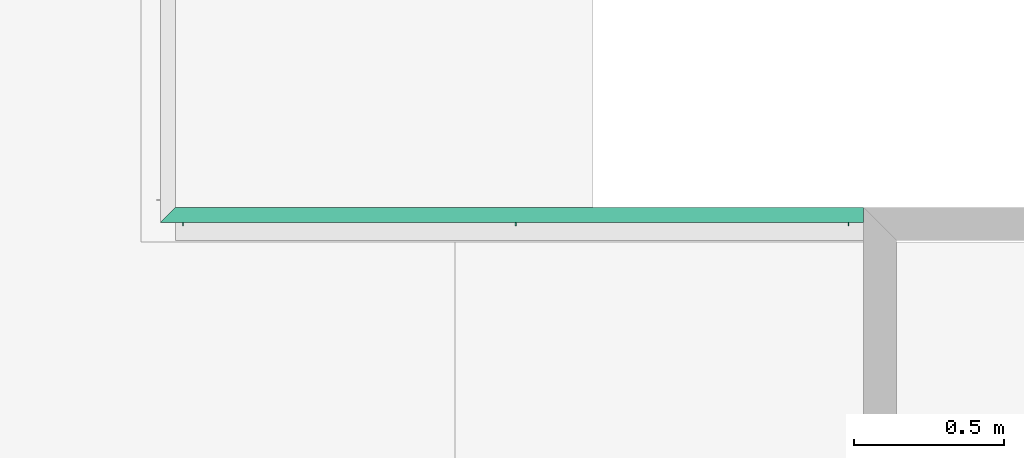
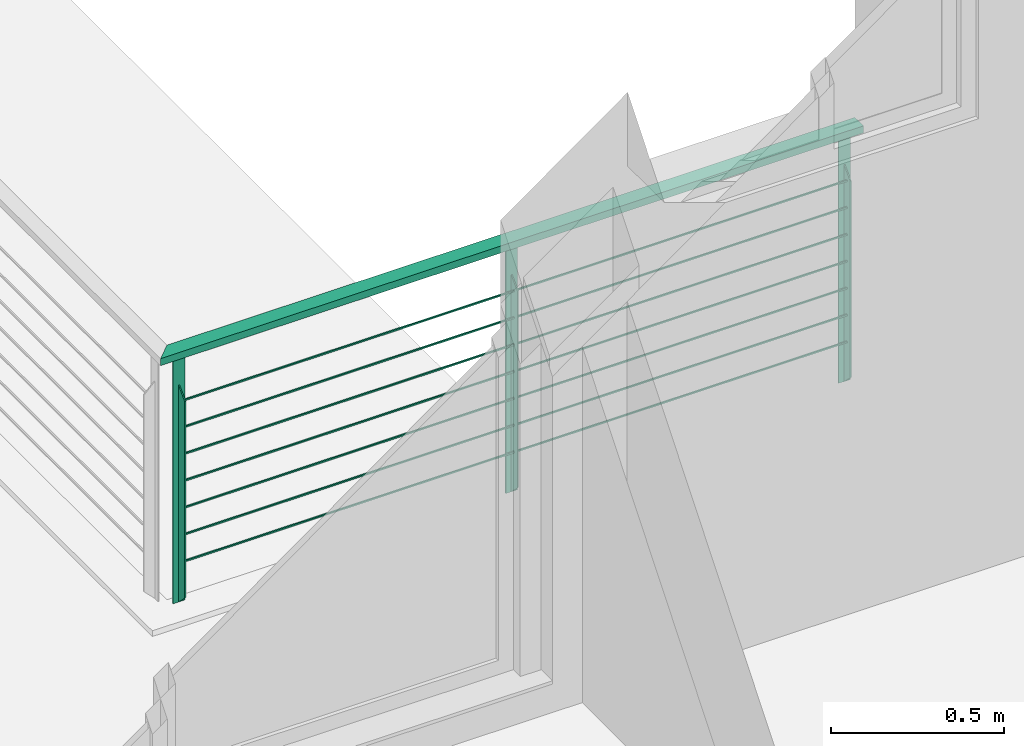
# One storey, part 23 of 24: 1 distribution element.
"""IFC2X3 building model written with IfcOpenShell, lengths in millimetres."""

from ifc_helpers import new_model, entity, si_unit, converted_unit, money_unit, direction, frame, origin_with_axes, place, context, subcontext, project, spatial, faceted_brep, material, type_object, element, save


model = new_model("IFC2X3")

# Units and contexts
model_context = context("Model", 3, precision=1e-05, world=origin_with_axes(), true_north=direction((0.0, 1.0)))
body_context = subcontext(model_context, "Body", "Model", "MODEL_VIEW")
ifc_project = project(units=[si_unit("LENGTHUNIT", "METRE", prefix="MILLI"), si_unit("AREAUNIT", "SQUARE_METRE"), si_unit("VOLUMEUNIT", "CUBIC_METRE"), converted_unit("PLANEANGLEUNIT", "DEGREE", entity("IfcPlaneAngleMeasure", 0.0174532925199), si_unit("PLANEANGLEUNIT", "RADIAN"), dimensions=[0, 0, 0, 0, 0, 0, 0]), si_unit("SOLIDANGLEUNIT", "STERADIAN"), money_unit("USD"), converted_unit("TIMEUNIT", "Year", entity("IfcTimeMeasure", 31556926.0), si_unit("TIMEUNIT", "SECOND"), dimensions=[0, 0, 0, 0, 0, 0, 0]), si_unit("MASSUNIT", "GRAM"), si_unit("THERMODYNAMICTEMPERATUREUNIT", "DEGREE_CELSIUS"), si_unit("LUMINOUSINTENSITYUNIT", "LUMEN")], contexts=[model_context])

# Site, building, storey
site_placement = place(None, origin_with_axes())
site = spatial("IfcSite", under=ifc_project, at=site_placement, Name="Grove Residential", CompositionType="ELEMENT")
building_placement = place(site_placement, origin_with_axes())
building = spatial("IfcBuilding", under=site, at=building_placement, Name="Building", CompositionType="ELEMENT")
storey_placement = place(building_placement, frame((0.0, 0.0, 3740.0), z_axis=(0.0, 0.0, 1.0), x_axis=(1.0, 0.0, 0.0)))
storey = spatial("IfcBuildingStorey", under=building, at=storey_placement, Name="First Floor", CompositionType="ELEMENT", Elevation=3740.0)

# Distribution element
ifc_material = material(Name="Background")
distribution_element_type = type_object("IfcDistributionElementType", Name="Rail Wired 02 20")
distribution_element_placement = place(storey_placement, frame((11550.0, 7975.0, -80.0), z_axis=(0.0, 0.0, 1.0), x_axis=(1.0, 0.0, 0.0)))
element("IfcDistributionElement", 1, at=distribution_element_placement, inside=storey, type_object=distribution_element_type, material=ifc_material, Name="FU - 001", context=body_context, shape_type="Brep", body=[
    faceted_brep([(0.0, 25.0, 875.0), (0.0, 25.0, 900.0), (0.0, -25.0, 900.0), (0.0, -25.0, 875.0), (-2300.0, 25.0, 875.0), (-2300.0, 25.0, 900.0), (-2350.0, -25.0, 900.0), (-2350.0, -25.0, 900.0), (-2350.0, -25.0, 875.0), (-2350.0, -25.0, 875.0)], [[[0, 1, 2, 3]], [[4, 5, 1, 0]], [[1, 5, 6, 7, 2]], [[3, 2, 7, 8]], [[0, 3, 8, 9, 4]], [[9, 6, 5, 4]], [[8, 7, 6, 9]]]),
    faceted_brep([(-30.0, -2.0, 0.0), (-30.0, -2.0, 871.0), (-70.0, -2.0, 871.0), (-70.0, -2.0, 0.0), (-30.0, 2.0, 0.0), (-30.0, 2.0, 871.0), (-70.0, 2.0, 871.0), (-70.0, 2.0, 0.0)], [[[0, 1, 2, 3]], [[4, 5, 1, 0]], [[1, 5, 6, 2]], [[3, 2, 6, 7]], [[0, 3, 7, 4]], [[7, 6, 5, 4]]]),
    faceted_brep([(-52.0, -38.0, 36.0), (-48.0, -38.0, 36.0), (-48.0, -38.0, 731.0), (-52.0, -38.0, 731.0), (-52.0, -2.0, 0.0), (-48.0, -2.0, 0.0), (-48.0, -2.0, 767.0), (-52.0, -2.0, 767.0)], [[[0, 1, 2, 3]], [[4, 5, 1, 0]], [[1, 5, 6, 2]], [[3, 2, 6, 7]], [[0, 3, 7, 4]], [[7, 6, 5, 4]]]),
    faceted_brep([(-1142.5, -2.0, 0.0), (-1142.5, -2.0, 871.0), (-1182.5, -2.0, 871.0), (-1182.5, -2.0, 0.0), (-1142.5, 2.0, 0.0), (-1142.5, 2.0, 871.0), (-1182.5, 2.0, 871.0), (-1182.5, 2.0, 0.0)], [[[0, 1, 2, 3]], [[4, 5, 1, 0]], [[1, 5, 6, 2]], [[3, 2, 6, 7]], [[0, 3, 7, 4]], [[7, 6, 5, 4]]]),
    faceted_brep([(-1164.5, -38.0, 36.0), (-1160.5, -38.0, 36.0), (-1160.5, -38.0, 731.0), (-1164.5, -38.0, 731.0), (-1164.5, -2.0, 0.0), (-1160.5, -2.0, 0.0), (-1160.5, -2.0, 767.0), (-1164.5, -2.0, 767.0)], [[[0, 1, 2, 3]], [[4, 5, 1, 0]], [[1, 5, 6, 2]], [[3, 2, 6, 7]], [[0, 3, 7, 4]], [[7, 6, 5, 4]]]),
    faceted_brep([(-2255.0, -2.0, 0.0), (-2255.0, -2.0, 871.0), (-2295.0, -2.0, 871.0), (-2295.0, -2.0, 0.0), (-2255.0, 2.0, 0.0), (-2255.0, 2.0, 871.0), (-2295.0, 2.0, 871.0), (-2295.0, 2.0, 0.0)], [[[0, 1, 2, 3]], [[4, 5, 1, 0]], [[1, 5, 6, 2]], [[3, 2, 6, 7]], [[0, 3, 7, 4]], [[7, 6, 5, 4]]]),
    faceted_brep([(-2277.0, -38.0, 36.0), (-2273.0, -38.0, 36.0), (-2273.0, -38.0, 731.0), (-2277.0, -38.0, 731.0), (-2277.0, -2.0, 0.0), (-2273.0, -2.0, 0.0), (-2273.0, -2.0, 767.0), (-2277.0, -2.0, 767.0)], [[[0, 1, 2, 3]], [[4, 5, 1, 0]], [[1, 5, 6, 2]], [[3, 2, 6, 7]], [[0, 3, 7, 4]], [[7, 6, 5, 4]]]),
    faceted_brep([(-20.0, -15.0, 871.0), (-20.0, -15.0, 875.0), (-80.0, -15.0, 875.0), (-80.0, -15.0, 871.0), (-20.0, 15.0, 871.0), (-20.0, 15.0, 875.0), (-80.0, 15.0, 875.0), (-80.0, 15.0, 871.0)], [[[0, 1, 2, 3]], [[4, 5, 1, 0]], [[1, 5, 6, 2]], [[3, 2, 6, 7]], [[0, 3, 7, 4]], [[7, 6, 5, 4]]]),
    faceted_brep([(-1132.5, -15.0, 871.0), (-1132.5, -15.0, 875.0), (-1192.5, -15.0, 875.0), (-1192.5, -15.0, 871.0), (-1132.5, 15.0, 871.0), (-1132.5, 15.0, 875.0), (-1192.5, 15.0, 875.0), (-1192.5, 15.0, 871.0)], [[[0, 1, 2, 3]], [[4, 5, 1, 0]], [[1, 5, 6, 2]], [[3, 2, 6, 7]], [[0, 3, 7, 4]], [[7, 6, 5, 4]]]),
    faceted_brep([(-2245.0, -15.0, 871.0), (-2245.0, -15.0, 875.0), (-2305.0, -15.0, 875.0), (-2305.0, -15.0, 871.0), (-2245.0, 15.0, 871.0), (-2245.0, 15.0, 875.0), (-2305.0, 15.0, 875.0), (-2305.0, 15.0, 871.0)], [[[0, 1, 2, 3]], [[4, 5, 1, 0]], [[1, 5, 6, 2]], [[3, 2, 6, 7]], [[0, 3, 7, 4]], [[7, 6, 5, 4]]]),
    faceted_brep([(-2255.0, -22.0, 155.0), (-2273.0, -22.0, 155.0), (-2273.0, -22.5, 155.0), (-1164.5, -22.5, 155.0), (-1164.5, -22.0, 155.0), (-1182.5, -22.0, 155.0), (-1182.5, -18.0, 155.0), (-1142.5, -18.0, 155.0), (-1142.5, -22.0, 155.0), (-1160.5, -22.0, 155.0), (-1160.5, -22.5, 155.0), (-52.0, -22.5, 155.0), (-52.0, -22.0, 155.0), (-70.0, -22.0, 155.0), (-70.0, -18.0, 155.0), (-50.0, -18.0, 155.0), (-50.0, -17.5, 155.0), (-2275.0, -17.5, 155.0), (-2275.0, -18.0, 155.0), (-2255.0, -18.0, 155.0), (-2255.0, -22.0, 150.0), (-2273.0, -22.0, 150.0), (-2273.0, -22.5, 150.0), (-1164.5, -22.5, 150.0), (-1164.5, -22.0, 150.0), (-1182.5, -22.0, 150.0), (-1182.5, -18.0, 150.0), (-1142.5, -18.0, 150.0), (-1142.5, -22.0, 150.0), (-1160.5, -22.0, 150.0), (-1160.5, -22.5, 150.0), (-52.0, -22.5, 150.0), (-52.0, -22.0, 150.0), (-70.0, -22.0, 150.0), (-70.0, -18.0, 150.0), (-50.0, -18.0, 150.0), (-50.0, -17.5, 150.0), (-2275.0, -17.5, 150.0), (-2275.0, -18.0, 150.0), (-2255.0, -18.0, 150.0)], [[[0, 1, 2, 3, 4, 5, 6, 7, 8, 9, 10, 11, 12, 13, 14, 15, 16, 17, 18, 19]], [[0, 20, 21, 1]], [[21, 22, 2, 1]], [[3, 2, 22, 23]], [[3, 23, 24, 4]], [[24, 25, 5, 4]], [[5, 25, 26, 6]], [[6, 26, 27, 7]], [[7, 27, 28, 8]], [[9, 8, 28, 29]], [[29, 30, 10, 9]], [[30, 31, 11, 10]], [[11, 31, 32, 12]], [[32, 33, 13, 12]], [[13, 33, 34, 14]], [[14, 34, 35, 15]], [[35, 36, 16, 15]], [[17, 16, 36, 37]], [[18, 17, 37, 38]], [[38, 39, 19, 18]], [[19, 39, 20, 0]], [[20, 39, 38, 37, 36, 35, 34, 33, 32, 31, 30, 29, 28, 27, 26, 25, 24, 23, 22, 21]]]),
    faceted_brep([(-2255.0, -22.0, 250.0), (-2273.0, -22.0, 250.0), (-2273.0, -22.5, 250.0), (-1164.5, -22.5, 250.0), (-1164.5, -22.0, 250.0), (-1182.5, -22.0, 250.0), (-1182.5, -18.0, 250.0), (-1142.5, -18.0, 250.0), (-1142.5, -22.0, 250.0), (-1160.5, -22.0, 250.0), (-1160.5, -22.5, 250.0), (-52.0, -22.5, 250.0), (-52.0, -22.0, 250.0), (-70.0, -22.0, 250.0), (-70.0, -18.0, 250.0), (-50.0, -18.0, 250.0), (-50.0, -17.5, 250.0), (-2275.0, -17.5, 250.0), (-2275.0, -18.0, 250.0), (-2255.0, -18.0, 250.0), (-2255.0, -22.0, 245.0), (-2273.0, -22.0, 245.0), (-2273.0, -22.5, 245.0), (-1164.5, -22.5, 245.0), (-1164.5, -22.0, 245.0), (-1182.5, -22.0, 245.0), (-1182.5, -18.0, 245.0), (-1142.5, -18.0, 245.0), (-1142.5, -22.0, 245.0), (-1160.5, -22.0, 245.0), (-1160.5, -22.5, 245.0), (-52.0, -22.5, 245.0), (-52.0, -22.0, 245.0), (-70.0, -22.0, 245.0), (-70.0, -18.0, 245.0), (-50.0, -18.0, 245.0), (-50.0, -17.5, 245.0), (-2275.0, -17.5, 245.0), (-2275.0, -18.0, 245.0), (-2255.0, -18.0, 245.0)], [[[0, 1, 2, 3, 4, 5, 6, 7, 8, 9, 10, 11, 12, 13, 14, 15, 16, 17, 18, 19]], [[0, 20, 21, 1]], [[21, 22, 2, 1]], [[3, 2, 22, 23]], [[3, 23, 24, 4]], [[24, 25, 5, 4]], [[5, 25, 26, 6]], [[6, 26, 27, 7]], [[7, 27, 28, 8]], [[9, 8, 28, 29]], [[29, 30, 10, 9]], [[30, 31, 11, 10]], [[11, 31, 32, 12]], [[32, 33, 13, 12]], [[13, 33, 34, 14]], [[14, 34, 35, 15]], [[35, 36, 16, 15]], [[17, 16, 36, 37]], [[18, 17, 37, 38]], [[38, 39, 19, 18]], [[19, 39, 20, 0]], [[20, 39, 38, 37, 36, 35, 34, 33, 32, 31, 30, 29, 28, 27, 26, 25, 24, 23, 22, 21]]]),
    faceted_brep([(-2255.0, -22.0, 345.0), (-2273.0, -22.0, 345.0), (-2273.0, -22.5, 345.0), (-1164.5, -22.5, 345.0), (-1164.5, -22.0, 345.0), (-1182.5, -22.0, 345.0), (-1182.5, -18.0, 345.0), (-1142.5, -18.0, 345.0), (-1142.5, -22.0, 345.0), (-1160.5, -22.0, 345.0), (-1160.5, -22.5, 345.0), (-52.0, -22.5, 345.0), (-52.0, -22.0, 345.0), (-70.0, -22.0, 345.0), (-70.0, -18.0, 345.0), (-50.0, -18.0, 345.0), (-50.0, -17.5, 345.0), (-2275.0, -17.5, 345.0), (-2275.0, -18.0, 345.0), (-2255.0, -18.0, 345.0), (-2255.0, -22.0, 340.0), (-2273.0, -22.0, 340.0), (-2273.0, -22.5, 340.0), (-1164.5, -22.5, 340.0), (-1164.5, -22.0, 340.0), (-1182.5, -22.0, 340.0), (-1182.5, -18.0, 340.0), (-1142.5, -18.0, 340.0), (-1142.5, -22.0, 340.0), (-1160.5, -22.0, 340.0), (-1160.5, -22.5, 340.0), (-52.0, -22.5, 340.0), (-52.0, -22.0, 340.0), (-70.0, -22.0, 340.0), (-70.0, -18.0, 340.0), (-50.0, -18.0, 340.0), (-50.0, -17.5, 340.0), (-2275.0, -17.5, 340.0), (-2275.0, -18.0, 340.0), (-2255.0, -18.0, 340.0)], [[[0, 1, 2, 3, 4, 5, 6, 7, 8, 9, 10, 11, 12, 13, 14, 15, 16, 17, 18, 19]], [[0, 20, 21, 1]], [[21, 22, 2, 1]], [[3, 2, 22, 23]], [[3, 23, 24, 4]], [[24, 25, 5, 4]], [[5, 25, 26, 6]], [[6, 26, 27, 7]], [[7, 27, 28, 8]], [[9, 8, 28, 29]], [[29, 30, 10, 9]], [[30, 31, 11, 10]], [[11, 31, 32, 12]], [[32, 33, 13, 12]], [[13, 33, 34, 14]], [[14, 34, 35, 15]], [[35, 36, 16, 15]], [[17, 16, 36, 37]], [[18, 17, 37, 38]], [[38, 39, 19, 18]], [[19, 39, 20, 0]], [[20, 39, 38, 37, 36, 35, 34, 33, 32, 31, 30, 29, 28, 27, 26, 25, 24, 23, 22, 21]]]),
    faceted_brep([(-2255.0, -22.0, 440.0), (-2273.0, -22.0, 440.0), (-2273.0, -22.5, 440.0), (-1164.5, -22.5, 440.0), (-1164.5, -22.0, 440.0), (-1182.5, -22.0, 440.0), (-1182.5, -18.0, 440.0), (-1142.5, -18.0, 440.0), (-1142.5, -22.0, 440.0), (-1160.5, -22.0, 440.0), (-1160.5, -22.5, 440.0), (-52.0, -22.5, 440.0), (-52.0, -22.0, 440.0), (-70.0, -22.0, 440.0), (-70.0, -18.0, 440.0), (-50.0, -18.0, 440.0), (-50.0, -17.5, 440.0), (-2275.0, -17.5, 440.0), (-2275.0, -18.0, 440.0), (-2255.0, -18.0, 440.0), (-2255.0, -22.0, 435.0), (-2273.0, -22.0, 435.0), (-2273.0, -22.5, 435.0), (-1164.5, -22.5, 435.0), (-1164.5, -22.0, 435.0), (-1182.5, -22.0, 435.0), (-1182.5, -18.0, 435.0), (-1142.5, -18.0, 435.0), (-1142.5, -22.0, 435.0), (-1160.5, -22.0, 435.0), (-1160.5, -22.5, 435.0), (-52.0, -22.5, 435.0), (-52.0, -22.0, 435.0), (-70.0, -22.0, 435.0), (-70.0, -18.0, 435.0), (-50.0, -18.0, 435.0), (-50.0, -17.5, 435.0), (-2275.0, -17.5, 435.0), (-2275.0, -18.0, 435.0), (-2255.0, -18.0, 435.0)], [[[0, 1, 2, 3, 4, 5, 6, 7, 8, 9, 10, 11, 12, 13, 14, 15, 16, 17, 18, 19]], [[0, 20, 21, 1]], [[21, 22, 2, 1]], [[3, 2, 22, 23]], [[3, 23, 24, 4]], [[24, 25, 5, 4]], [[5, 25, 26, 6]], [[6, 26, 27, 7]], [[7, 27, 28, 8]], [[9, 8, 28, 29]], [[29, 30, 10, 9]], [[30, 31, 11, 10]], [[11, 31, 32, 12]], [[32, 33, 13, 12]], [[13, 33, 34, 14]], [[14, 34, 35, 15]], [[35, 36, 16, 15]], [[17, 16, 36, 37]], [[18, 17, 37, 38]], [[38, 39, 19, 18]], [[19, 39, 20, 0]], [[20, 39, 38, 37, 36, 35, 34, 33, 32, 31, 30, 29, 28, 27, 26, 25, 24, 23, 22, 21]]]),
    faceted_brep([(-2255.0, -22.0, 535.0), (-2273.0, -22.0, 535.0), (-2273.0, -22.5, 535.0), (-1164.5, -22.5, 535.0), (-1164.5, -22.0, 535.0), (-1182.5, -22.0, 535.0), (-1182.5, -18.0, 535.0), (-1142.5, -18.0, 535.0), (-1142.5, -22.0, 535.0), (-1160.5, -22.0, 535.0), (-1160.5, -22.5, 535.0), (-52.0, -22.5, 535.0), (-52.0, -22.0, 535.0), (-70.0, -22.0, 535.0), (-70.0, -18.0, 535.0), (-50.0, -18.0, 535.0), (-50.0, -17.5, 535.0), (-2275.0, -17.5, 535.0), (-2275.0, -18.0, 535.0), (-2255.0, -18.0, 535.0), (-2255.0, -22.0, 530.0), (-2273.0, -22.0, 530.0), (-2273.0, -22.5, 530.0), (-1164.5, -22.5, 530.0), (-1164.5, -22.0, 530.0), (-1182.5, -22.0, 530.0), (-1182.5, -18.0, 530.0), (-1142.5, -18.0, 530.0), (-1142.5, -22.0, 530.0), (-1160.5, -22.0, 530.0), (-1160.5, -22.5, 530.0), (-52.0, -22.5, 530.0), (-52.0, -22.0, 530.0), (-70.0, -22.0, 530.0), (-70.0, -18.0, 530.0), (-50.0, -18.0, 530.0), (-50.0, -17.5, 530.0), (-2275.0, -17.5, 530.0), (-2275.0, -18.0, 530.0), (-2255.0, -18.0, 530.0)], [[[0, 1, 2, 3, 4, 5, 6, 7, 8, 9, 10, 11, 12, 13, 14, 15, 16, 17, 18, 19]], [[0, 20, 21, 1]], [[21, 22, 2, 1]], [[3, 2, 22, 23]], [[3, 23, 24, 4]], [[24, 25, 5, 4]], [[5, 25, 26, 6]], [[6, 26, 27, 7]], [[7, 27, 28, 8]], [[9, 8, 28, 29]], [[29, 30, 10, 9]], [[30, 31, 11, 10]], [[11, 31, 32, 12]], [[32, 33, 13, 12]], [[13, 33, 34, 14]], [[14, 34, 35, 15]], [[35, 36, 16, 15]], [[17, 16, 36, 37]], [[18, 17, 37, 38]], [[38, 39, 19, 18]], [[19, 39, 20, 0]], [[20, 39, 38, 37, 36, 35, 34, 33, 32, 31, 30, 29, 28, 27, 26, 25, 24, 23, 22, 21]]]),
    faceted_brep([(-2255.0, -22.0, 630.0), (-2273.0, -22.0, 630.0), (-2273.0, -22.5, 630.0), (-1164.5, -22.5, 630.0), (-1164.5, -22.0, 630.0), (-1182.5, -22.0, 630.0), (-1182.5, -18.0, 630.0), (-1142.5, -18.0, 630.0), (-1142.5, -22.0, 630.0), (-1160.5, -22.0, 630.0), (-1160.5, -22.5, 630.0), (-52.0, -22.5, 630.0), (-52.0, -22.0, 630.0), (-70.0, -22.0, 630.0), (-70.0, -18.0, 630.0), (-50.0, -18.0, 630.0), (-50.0, -17.5, 630.0), (-2275.0, -17.5, 630.0), (-2275.0, -18.0, 630.0), (-2255.0, -18.0, 630.0), (-2255.0, -22.0, 625.0), (-2273.0, -22.0, 625.0), (-2273.0, -22.5, 625.0), (-1164.5, -22.5, 625.0), (-1164.5, -22.0, 625.0), (-1182.5, -22.0, 625.0), (-1182.5, -18.0, 625.0), (-1142.5, -18.0, 625.0), (-1142.5, -22.0, 625.0), (-1160.5, -22.0, 625.0), (-1160.5, -22.5, 625.0), (-52.0, -22.5, 625.0), (-52.0, -22.0, 625.0), (-70.0, -22.0, 625.0), (-70.0, -18.0, 625.0), (-50.0, -18.0, 625.0), (-50.0, -17.5, 625.0), (-2275.0, -17.5, 625.0), (-2275.0, -18.0, 625.0), (-2255.0, -18.0, 625.0)], [[[0, 1, 2, 3, 4, 5, 6, 7, 8, 9, 10, 11, 12, 13, 14, 15, 16, 17, 18, 19]], [[0, 20, 21, 1]], [[21, 22, 2, 1]], [[3, 2, 22, 23]], [[3, 23, 24, 4]], [[24, 25, 5, 4]], [[5, 25, 26, 6]], [[6, 26, 27, 7]], [[7, 27, 28, 8]], [[9, 8, 28, 29]], [[29, 30, 10, 9]], [[30, 31, 11, 10]], [[11, 31, 32, 12]], [[32, 33, 13, 12]], [[13, 33, 34, 14]], [[14, 34, 35, 15]], [[35, 36, 16, 15]], [[17, 16, 36, 37]], [[18, 17, 37, 38]], [[38, 39, 19, 18]], [[19, 39, 20, 0]], [[20, 39, 38, 37, 36, 35, 34, 33, 32, 31, 30, 29, 28, 27, 26, 25, 24, 23, 22, 21]]]),
    faceted_brep([(-2255.0, -22.0, 725.0), (-2273.0, -22.0, 725.0), (-2273.0, -22.5, 725.0), (-1164.5, -22.5, 725.0), (-1164.5, -22.0, 725.0), (-1182.5, -22.0, 725.0), (-1182.5, -18.0, 725.0), (-1142.5, -18.0, 725.0), (-1142.5, -22.0, 725.0), (-1160.5, -22.0, 725.0), (-1160.5, -22.5, 725.0), (-52.0, -22.5, 725.0), (-52.0, -22.0, 725.0), (-70.0, -22.0, 725.0), (-70.0, -18.0, 725.0), (-50.0, -18.0, 725.0), (-50.0, -17.5, 725.0), (-2275.0, -17.5, 725.0), (-2275.0, -18.0, 725.0), (-2255.0, -18.0, 725.0), (-2255.0, -22.0, 720.0), (-2273.0, -22.0, 720.0), (-2273.0, -22.5, 720.0), (-1164.5, -22.5, 720.0), (-1164.5, -22.0, 720.0), (-1182.5, -22.0, 720.0), (-1182.5, -18.0, 720.0), (-1142.5, -18.0, 720.0), (-1142.5, -22.0, 720.0), (-1160.5, -22.0, 720.0), (-1160.5, -22.5, 720.0), (-52.0, -22.5, 720.0), (-52.0, -22.0, 720.0), (-70.0, -22.0, 720.0), (-70.0, -18.0, 720.0), (-50.0, -18.0, 720.0), (-50.0, -17.5, 720.0), (-2275.0, -17.5, 720.0), (-2275.0, -18.0, 720.0), (-2255.0, -18.0, 720.0)], [[[0, 1, 2, 3, 4, 5, 6, 7, 8, 9, 10, 11, 12, 13, 14, 15, 16, 17, 18, 19]], [[0, 20, 21, 1]], [[21, 22, 2, 1]], [[3, 2, 22, 23]], [[3, 23, 24, 4]], [[24, 25, 5, 4]], [[5, 25, 26, 6]], [[6, 26, 27, 7]], [[7, 27, 28, 8]], [[9, 8, 28, 29]], [[29, 30, 10, 9]], [[30, 31, 11, 10]], [[11, 31, 32, 12]], [[32, 33, 13, 12]], [[13, 33, 34, 14]], [[14, 34, 35, 15]], [[35, 36, 16, 15]], [[17, 16, 36, 37]], [[18, 17, 37, 38]], [[38, 39, 19, 18]], [[19, 39, 20, 0]], [[20, 39, 38, 37, 36, 35, 34, 33, 32, 31, 30, 29, 28, 27, 26, 25, 24, 23, 22, 21]]]),
])

save(model, "model.ifc")
